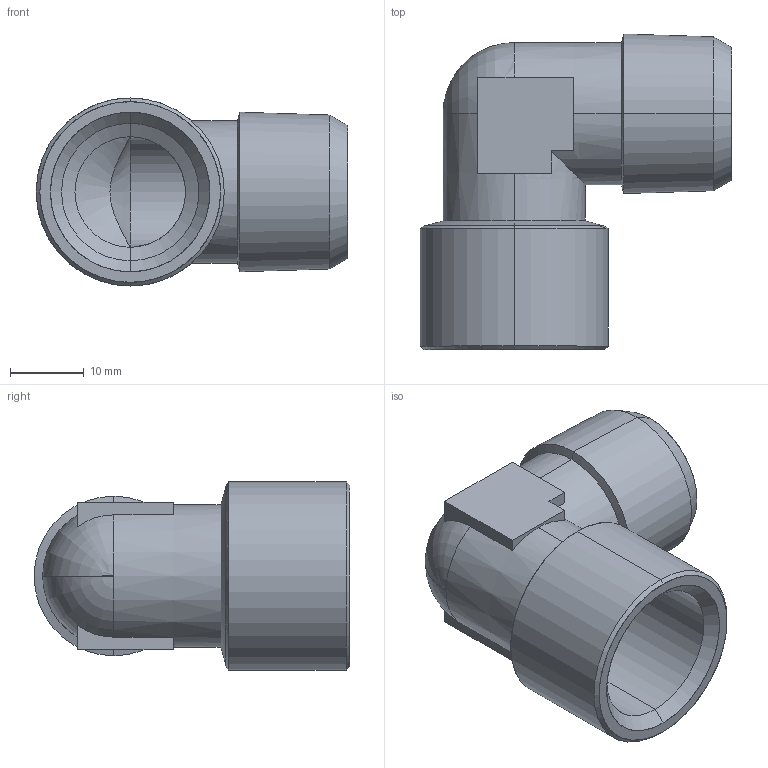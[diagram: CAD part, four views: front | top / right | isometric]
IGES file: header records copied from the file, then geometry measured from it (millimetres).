
Start section: SolidWorks IGES file using analytic representation for surfaces
Global section: file name: K:\Disegni Esecutivi\Accessori\5020\0502000010500.IGS; native system: SolidWorks 2007; preprocessor: SolidWorks 2007; author: cad02; date: 071024.115619; units: millimetre
Bounding box: 42.25 x 42.82 x 25.5 mm (x, y, z)
Surface area: 7713.6 mm2 (no closed solid volume)
Topology: 0 solids, 0 shells, 50 faces, 478 edges, 477 vertices
Faces by surface type: revolution 32, bspline 18
